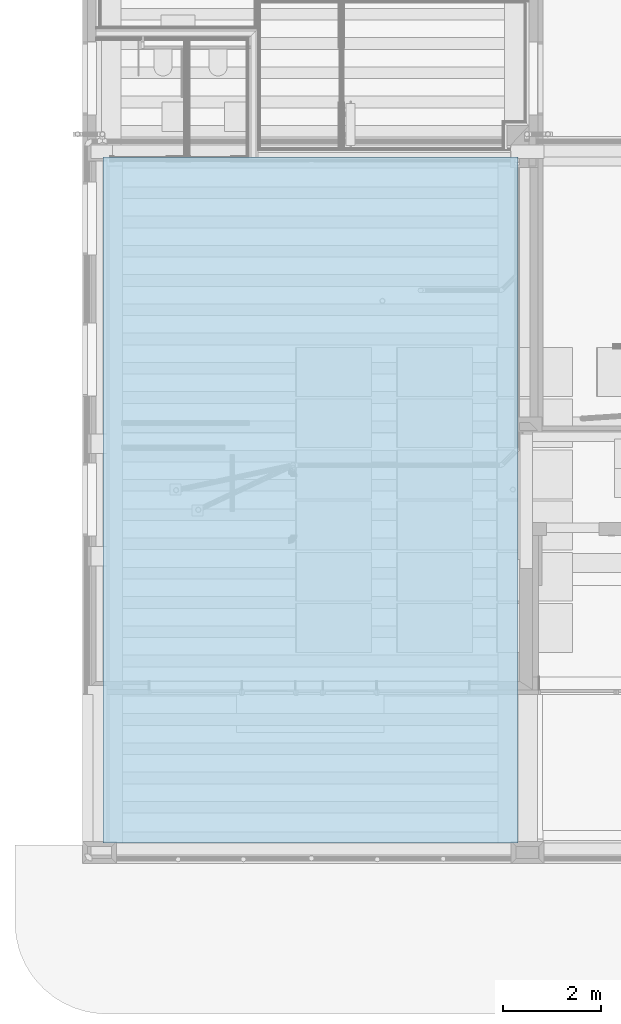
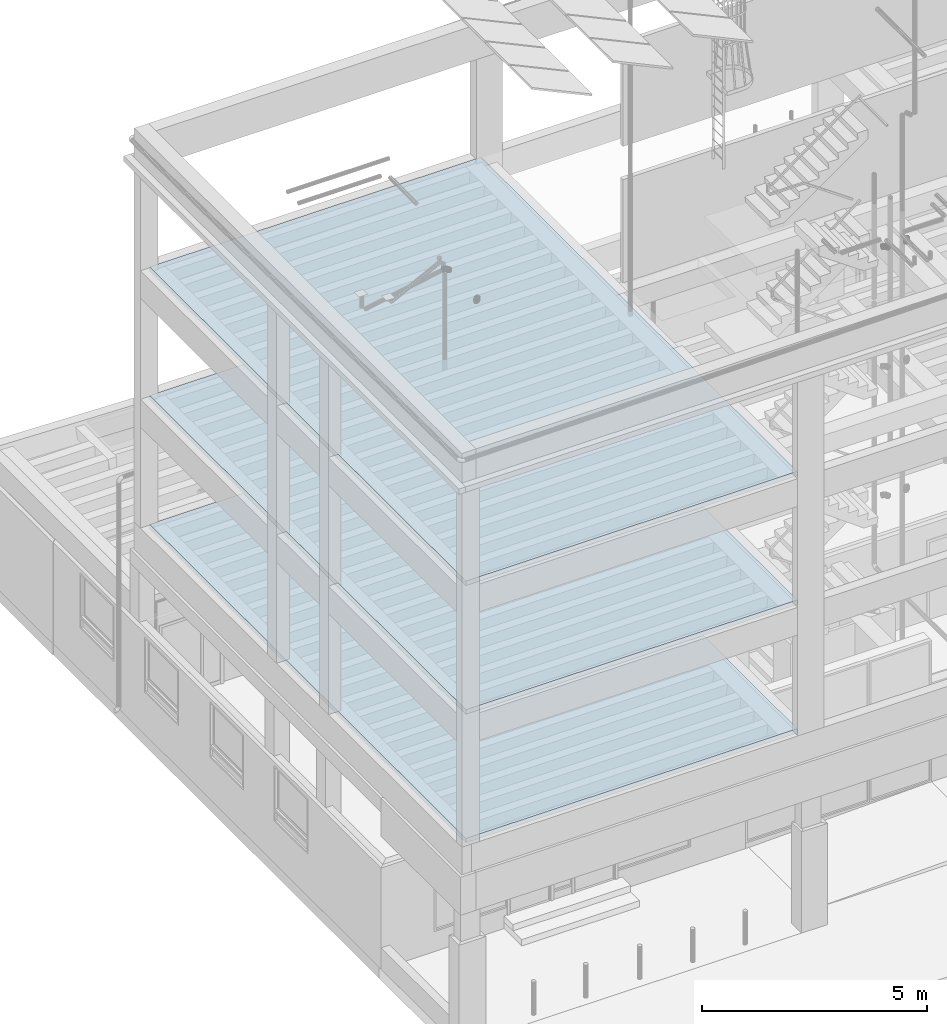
# One storey, part 15 of 106: 3 slabs.
"""IFC2X3 building model written with IfcOpenShell, lengths in metres."""

from ifc_helpers import new_model, entity, si_unit, converted_unit, derived_unit, money_unit, direction, origin_with_axes, place, context, subcontext, project, spatial, faceted_brep, material, type_object, element, save


model = new_model("IFC2X3")

# Units and contexts
model_context = context("Model", 3, precision=1e-05, world=origin_with_axes(), true_north=direction((0.0, 1.0)))
body_context = subcontext(model_context, "Body", "Model", "MODEL_VIEW", scale=1.0)
ifc_project = project(units=[si_unit("LENGTHUNIT", "METRE"), si_unit("AREAUNIT", "SQUARE_METRE"), si_unit("VOLUMEUNIT", "CUBIC_METRE"), si_unit("ABSORBEDDOSEUNIT", "GRAY"), si_unit("AMOUNTOFSUBSTANCEUNIT", "MOLE"), si_unit("DOSEEQUIVALENTUNIT", "SIEVERT"), si_unit("ELECTRICCAPACITANCEUNIT", "FARAD"), si_unit("ELECTRICCHARGEUNIT", "COULOMB"), si_unit("ELECTRICCONDUCTANCEUNIT", "SIEMENS"), si_unit("ELECTRICCURRENTUNIT", "AMPERE"), si_unit("ELECTRICRESISTANCEUNIT", "OHM"), si_unit("ELECTRICVOLTAGEUNIT", "VOLT"), si_unit("ENERGYUNIT", "JOULE"), si_unit("FORCEUNIT", "NEWTON"), si_unit("FREQUENCYUNIT", "HERTZ"), si_unit("ILLUMINANCEUNIT", "LUX"), si_unit("INDUCTANCEUNIT", "HENRY"), si_unit("LUMINOUSFLUXUNIT", "LUMEN"), si_unit("LUMINOUSINTENSITYUNIT", "CANDELA"), si_unit("MAGNETICFLUXDENSITYUNIT", "TESLA"), si_unit("MAGNETICFLUXUNIT", "WEBER"), si_unit("MASSUNIT", "GRAM"), converted_unit("PLANEANGLEUNIT", "degree", entity("IfcReal", 0.0174532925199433), si_unit("PLANEANGLEUNIT", "RADIAN"), dimensions=[0, 0, 0, 0, 0, 0, 0]), si_unit("POWERUNIT", "WATT"), si_unit("PRESSUREUNIT", "PASCAL"), si_unit("RADIOACTIVITYUNIT", "BECQUEREL"), si_unit("SOLIDANGLEUNIT", "STERADIAN"), si_unit("THERMODYNAMICTEMPERATUREUNIT", "KELVIN"), si_unit("TIMEUNIT", "SECOND"), derived_unit("ACCELERATIONUNIT", [(si_unit("LENGTHUNIT", "METRE"), 1), (si_unit("TIMEUNIT", "SECOND"), -2)]), derived_unit("ANGULARVELOCITYUNIT", [(converted_unit("PLANEANGLEUNIT", "degree", entity("IfcReal", 0.0174532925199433), si_unit("PLANEANGLEUNIT", "RADIAN"), dimensions=[0, 0, 0, 0, 0, 0, 0]), 1), (si_unit("TIMEUNIT", "SECOND"), -1)]), derived_unit("CURVATUREUNIT", [(converted_unit("PLANEANGLEUNIT", "degree", entity("IfcReal", 0.0174532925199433), si_unit("PLANEANGLEUNIT", "RADIAN"), dimensions=[0, 0, 0, 0, 0, 0, 0]), 1), (si_unit("LENGTHUNIT", "METRE"), -1)]), derived_unit("DYNAMICVISCOSITYUNIT", [(si_unit("PRESSUREUNIT", "PASCAL"), 1), (si_unit("TIMEUNIT", "SECOND"), 1)]), derived_unit("HEATFLUXDENSITYUNIT", [(si_unit("POWERUNIT", "WATT"), 1), (si_unit("LENGTHUNIT", "METRE"), -2)]), derived_unit("HEATINGVALUEUNIT", [(si_unit("ENERGYUNIT", "JOULE"), 1), (si_unit("MASSUNIT", "GRAM"), -1)]), derived_unit("INTEGERCOUNTRATEUNIT", [(si_unit("TIMEUNIT", "SECOND"), -1)]), derived_unit("IONCONCENTRATIONUNIT", [(si_unit("MASSUNIT", "GRAM"), 1), (si_unit("VOLUMEUNIT", "CUBIC_METRE"), -1)]), derived_unit("ISOTHERMALMOISTURECAPACITYUNIT", [(si_unit("VOLUMEUNIT", "CUBIC_METRE"), 1), (si_unit("MASSUNIT", "GRAM"), -1)]), derived_unit("KINEMATICVISCOSITYUNIT", [(si_unit("AREAUNIT", "SQUARE_METRE"), 1), (si_unit("TIMEUNIT", "SECOND"), -1)]), derived_unit("LINEARFORCEUNIT", [(si_unit("FORCEUNIT", "NEWTON"), 1), (si_unit("LENGTHUNIT", "METRE"), -1)]), derived_unit("LINEARMOMENTUNIT", [(si_unit("FORCEUNIT", "NEWTON"), 1), (si_unit("LENGTHUNIT", "METRE"), -1)]), derived_unit("LINEARSTIFFNESSUNIT", [(si_unit("FORCEUNIT", "NEWTON"), 1), (si_unit("LENGTHUNIT", "METRE"), -1)]), derived_unit("LINEARVELOCITYUNIT", [(si_unit("LENGTHUNIT", "METRE"), 1), (si_unit("TIMEUNIT", "SECOND"), -1)]), derived_unit("LUMINOUSINTENSITYDISTRIBUTIONUNIT", [(si_unit("LUMINOUSINTENSITYUNIT", "CANDELA"), 1), (si_unit("LUMINOUSFLUXUNIT", "LUMEN"), -1)]), derived_unit("MASSDENSITYUNIT", [(si_unit("MASSUNIT", "GRAM"), 1), (si_unit("VOLUMEUNIT", "CUBIC_METRE"), -1)]), derived_unit("MASSFLOWRATEUNIT", [(si_unit("MASSUNIT", "GRAM"), 1), (si_unit("TIMEUNIT", "SECOND"), -1)]), derived_unit("MASSPERLENGTHUNIT", [(si_unit("MASSUNIT", "GRAM"), 1), (si_unit("LENGTHUNIT", "METRE"), -1)]), derived_unit("MODULUSOFELASTICITYUNIT", [(si_unit("FORCEUNIT", "NEWTON"), 1), (si_unit("AREAUNIT", "SQUARE_METRE"), -1)]), derived_unit("MODULUSOFLINEARSUBGRADEREACTIONUNIT", [(si_unit("FORCEUNIT", "NEWTON"), 1), (si_unit("LENGTHUNIT", "METRE"), -2)]), derived_unit("MODULUSOFROTATIONALSUBGRADEREACTIONUNIT", [(si_unit("FORCEUNIT", "NEWTON"), 1), (si_unit("LENGTHUNIT", "METRE"), 1)]), derived_unit("MODULUSOFSUBGRADEREACTIONUNIT", [(si_unit("FORCEUNIT", "NEWTON"), 1), (si_unit("VOLUMEUNIT", "CUBIC_METRE"), -1)]), derived_unit("MOISTUREDIFFUSIVITYUNIT", [(si_unit("VOLUMEUNIT", "CUBIC_METRE"), 1), (si_unit("TIMEUNIT", "SECOND"), -1)]), derived_unit("MOLECULARWEIGHTUNIT", [(si_unit("MASSUNIT", "GRAM"), 1), (si_unit("AMOUNTOFSUBSTANCEUNIT", "MOLE"), -1)]), derived_unit("PLANARFORCEUNIT", [(si_unit("FORCEUNIT", "NEWTON"), 1), (si_unit("LENGTHUNIT", "METRE"), -2)]), derived_unit("ROTATIONALFREQUENCYUNIT", [(si_unit("TIMEUNIT", "SECOND"), -1)]), derived_unit("ROTATIONALMASSUNIT", [(si_unit("MASSUNIT", "GRAM"), 1), (si_unit("LENGTHUNIT", "METRE"), 2)]), derived_unit("ROTATIONALSTIFFNESSUNIT", [(si_unit("FORCEUNIT", "NEWTON"), 1), (si_unit("LENGTHUNIT", "METRE"), 1), (converted_unit("PLANEANGLEUNIT", "degree", entity("IfcReal", 0.0174532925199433), si_unit("PLANEANGLEUNIT", "RADIAN"), dimensions=[0, 0, 0, 0, 0, 0, 0]), -1)]), derived_unit("SECTIONAREAINTEGRALUNIT", [(si_unit("LENGTHUNIT", "METRE"), 5)]), derived_unit("SECTIONMODULUSUNIT", [(si_unit("LENGTHUNIT", "METRE"), 3)]), derived_unit("SHEARMODULUSUNIT", [(si_unit("FORCEUNIT", "NEWTON"), 1), (si_unit("AREAUNIT", "SQUARE_METRE"), -1)]), derived_unit("SOUNDPOWERUNIT", [(si_unit("ENERGYUNIT", "JOULE"), 1), (si_unit("TIMEUNIT", "SECOND"), -1)]), derived_unit("SPECIFICHEATCAPACITYUNIT", [(si_unit("FORCEUNIT", "NEWTON"), 1), (si_unit("MASSUNIT", "GRAM"), -1), (si_unit("THERMODYNAMICTEMPERATUREUNIT", "KELVIN"), -1)]), derived_unit("TEMPERATUREGRADIENTUNIT", [(si_unit("THERMODYNAMICTEMPERATUREUNIT", "KELVIN"), 1), (si_unit("LENGTHUNIT", "METRE"), -1)]), derived_unit("THERMALADMITTANCEUNIT", [(si_unit("POWERUNIT", "WATT"), 1), (si_unit("AREAUNIT", "SQUARE_METRE"), -1), (si_unit("THERMODYNAMICTEMPERATUREUNIT", "KELVIN"), -1)]), derived_unit("THERMALCONDUCTANCEUNIT", [(si_unit("POWERUNIT", "WATT"), 1), (si_unit("LENGTHUNIT", "METRE"), -1), (si_unit("THERMODYNAMICTEMPERATUREUNIT", "KELVIN"), -1)]), derived_unit("THERMALEXPANSIONCOEFFICIENTUNIT", [(si_unit("THERMODYNAMICTEMPERATUREUNIT", "KELVIN"), -1)]), derived_unit("THERMALRESISTANCEUNIT", [(si_unit("AREAUNIT", "SQUARE_METRE"), 1), (si_unit("POWERUNIT", "WATT"), -1)]), derived_unit("THERMALTRANSMITTANCEUNIT", [(si_unit("POWERUNIT", "WATT"), 1), (si_unit("AREAUNIT", "SQUARE_METRE"), -1), (si_unit("THERMODYNAMICTEMPERATUREUNIT", "KELVIN"), -1)]), derived_unit("TORQUEUNIT", [(si_unit("FORCEUNIT", "NEWTON"), 1), (si_unit("LENGTHUNIT", "METRE"), 1)]), derived_unit("VAPORPERMEABILITYUNIT", [(si_unit("MASSUNIT", "GRAM"), 1), (si_unit("TIMEUNIT", "SECOND"), -1)]), derived_unit("VOLUMETRICFLOWRATEUNIT", [(si_unit("VOLUMEUNIT", "CUBIC_METRE"), 1), (si_unit("TIMEUNIT", "SECOND"), -1)]), derived_unit("WARPINGCONSTANTUNIT", [(si_unit("LENGTHUNIT", "METRE"), 6)]), derived_unit("WARPINGMOMENTUNIT", [(si_unit("FORCEUNIT", "NEWTON"), 1), (si_unit("LENGTHUNIT", "METRE"), 2)]), money_unit("GBP")], contexts=[model_context])

# Site, building, storey
site_placement = place(None, origin_with_axes())
site = spatial("IfcSite", under=ifc_project, at=site_placement, Name="Site", CompositionType="ELEMENT")
building_placement = place(site_placement, origin_with_axes())
building = spatial("IfcBuilding", under=site, at=building_placement, Name="Building01", CompositionType="ELEMENT")
storey_placement = place(building_placement, origin_with_axes())
storey = spatial("IfcBuildingStorey", under=building, at=storey_placement, Name="GF", CompositionType="ELEMENT", Elevation=0.0)

# Slabs
ifc_material = material(Name="A_BSUK_Slabs")
slab_type = type_object("IfcSlabType", Name="A-FloorsSlabs A_BSUK_Slabs", PredefinedType="FLOOR")
placement = place(storey_placement, origin_with_axes())
element("IfcSlab", 1, at=placement, inside=storey, type_object=slab_type, material=ifc_material, Name="A-FloorsSlabs A_BSUK_Slabs", ObjectType="CompoundSlabLeaf", context=body_context, shape_type="Brep", body=[
    faceted_brep([(0.42, 14.48, 8.47), (0.42, 14.48, 8.59), (8.925, 14.48, 8.59), (8.925, 14.48, 8.47), (0.42, 0.42, 8.47), (0.42, 0.42, 8.59), (8.925, 0.42, 8.47), (8.925, 0.42, 8.59)], [[[0, 1, 2, 3]], [[4, 5, 1, 0]], [[6, 7, 5, 4]], [[3, 2, 7, 6]], [[1, 5, 7, 2]], [[3, 6, 4, 0]]]),
])
element("IfcSlab", 2, at=placement, inside=storey, type_object=slab_type, material=ifc_material, Name="A-FloorsSlabs A_BSUK_Slabs", ObjectType="CompoundSlabLeaf", context=body_context, shape_type="Brep", body=[
    faceted_brep([(0.42, 14.48, 11.96), (0.42, 14.48, 12.08), (8.925, 14.48, 12.08), (8.925, 14.48, 11.96), (0.42, 0.42, 11.96), (0.42, 0.42, 12.08), (8.925, 0.42, 11.96), (8.925, 0.42, 12.08)], [[[0, 1, 2, 3]], [[4, 5, 1, 0]], [[6, 7, 5, 4]], [[3, 2, 7, 6]], [[1, 5, 7, 2]], [[3, 6, 4, 0]]]),
])
element("IfcSlab", 3, at=placement, inside=storey, type_object=slab_type, material=ifc_material, Name="A-FloorsSlabs A_BSUK_Slabs", ObjectType="CompoundSlabLeaf", context=body_context, shape_type="Brep", body=[
    faceted_brep([(0.42, 14.48, 4.98), (0.42, 14.48, 5.1), (8.925, 14.48, 5.1), (8.925, 14.48, 4.98), (0.42, 0.42, 4.98), (0.42, 0.42, 5.1), (8.925, 0.42, 4.98), (8.925, 0.42, 5.1)], [[[0, 1, 2, 3]], [[4, 5, 1, 0]], [[6, 7, 5, 4]], [[3, 2, 7, 6]], [[1, 5, 7, 2]], [[3, 6, 4, 0]]]),
])

save(model, "model.ifc")
